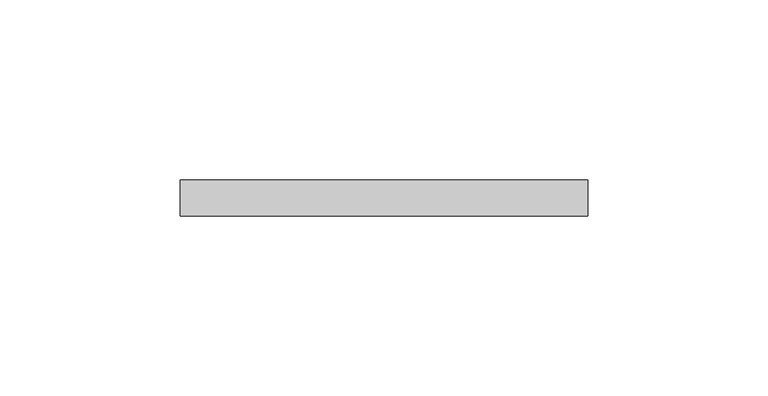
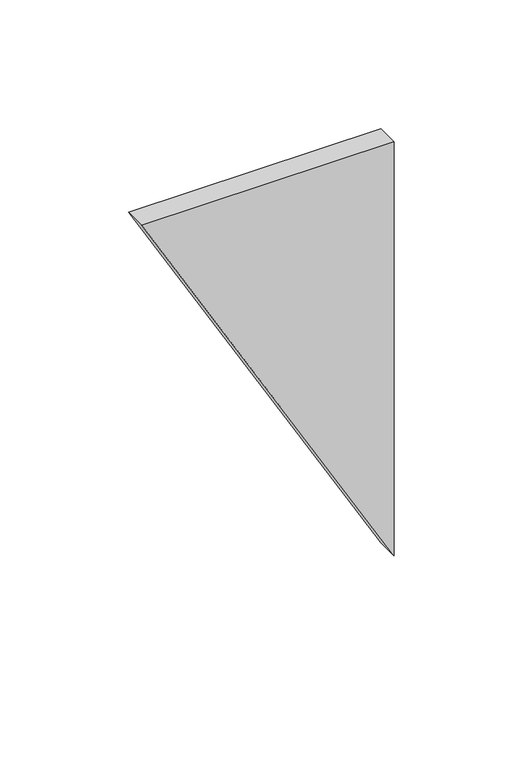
"""IFC4 building model written with IfcOpenShell, lengths in millimetres: plate geometry, 系統嵌板 : 玻璃 1.0cm."""

from ifc_helpers import new_model, si_unit, frame, origin, place, context, project, spatial, polyline, outline, extrude, source, transform, mapped, element, save


def plate_d0fd6e1e(model_context):
    return source(origin(), model_context, "Body", "SweptSolid", [
        extrude(outline(polyline([(196.1524227, -56.624327), (0.0, 56.624327), (196.1524227, 56.624327), (196.1524227, -56.624327)])), frame((0.0, -5.0, 0.0), z_axis=(0.0, 1.0, 0.0), x_axis=(0.0, 0.0, 1.0)), (0.0, 0.0, 1.0), 10.0),
    ])


if __name__ == "__main__":
    model = new_model("IFC4")
    model_context = context("Model", 3, world=origin())
    ifc_project = project(units=[si_unit("LENGTHUNIT", "METRE", prefix="MILLI")], contexts=[model_context])
    site = spatial("IfcSite", under=ifc_project)
    building = spatial("IfcBuilding", under=site)
    placement = place(None, origin())
    plate_shape = plate_d0fd6e1e(model_context)
    element("IfcPlate", 1, ObjectType="系統嵌板 : 玻璃 1.0cm", at=placement, inside=building, context=model_context, shape_type="MappedRepresentation", body=[
        mapped(plate_shape, transform((0.0, 0.0, 0.0), x_axis=(1.0, 0.0, 0.0), y_axis=(0.0, 1.0, 0.0), z_axis=(0.0, 0.0, 1.0))),
    ])
    save(model, "model.ifc")
